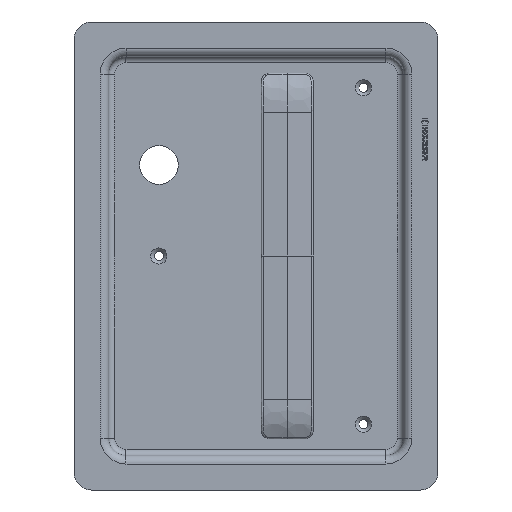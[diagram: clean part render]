
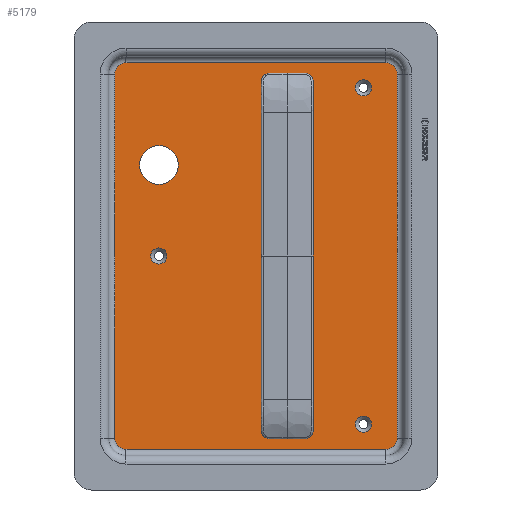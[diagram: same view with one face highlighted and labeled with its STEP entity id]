
A CAD part, front view. The second image highlights one B-rep face of the part: STEP entity #5179.
In plain terms, the highlighted planar face has unit normal (0, -1, 0) as drawn and (0, 0, -1) by its records, which use the part's own axes.
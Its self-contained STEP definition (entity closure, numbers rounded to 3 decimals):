
#267=FACE_BOUND('',#1028,.T.);
#268=FACE_BOUND('',#1029,.T.);
#269=FACE_BOUND('',#1030,.T.);
#270=FACE_BOUND('',#1031,.T.);
#271=FACE_BOUND('',#1032,.T.);
#272=FACE_BOUND('',#1033,.T.);
#273=FACE_BOUND('',#1034,.T.);
#274=FACE_BOUND('',#1035,.T.);
#516=PLANE('',#5604);
#713=FACE_OUTER_BOUND('',#1027,.T.);
#1027=EDGE_LOOP('',(#3967,#3968,#3969,#3970,#3971,#3972,#3973,#3974));
#1028=EDGE_LOOP('',(#3975));
#1029=EDGE_LOOP('',(#3976));
#1030=EDGE_LOOP('',(#3977));
#1031=EDGE_LOOP('',(#3978));
#1032=EDGE_LOOP('',(#3979));
#1033=EDGE_LOOP('',(#3980));
#1034=EDGE_LOOP('',(#3981));
#1035=EDGE_LOOP('',(#3982));
#1339=LINE('',#11691,#1757);
#1340=LINE('',#11695,#1758);
#1341=LINE('',#11699,#1759);
#1342=LINE('',#11703,#1760);
#1757=VECTOR('',#6186,10.);
#1758=VECTOR('',#6189,10.);
#1759=VECTOR('',#6192,10.);
#1760=VECTOR('',#6195,10.);
#2131=CIRCLE('',#5573,11.15);
#2142=CIRCLE('',#5591,2.75);
#2144=CIRCLE('',#5594,2.75);
#2146=CIRCLE('',#5597,2.75);
#2148=CIRCLE('',#5600,2.75);
#2150=CIRCLE('',#5603,4.65);
#2151=CIRCLE('',#5605,6.5);
#2152=CIRCLE('',#5606,6.5);
#2153=CIRCLE('',#5607,6.5);
#2154=CIRCLE('',#5608,6.5);
#2155=CIRCLE('',#5609,4.65);
#2156=CIRCLE('',#5610,4.65);
#2358=VERTEX_POINT('',#11628);
#2369=VERTEX_POINT('',#11661);
#2371=VERTEX_POINT('',#11667);
#2373=VERTEX_POINT('',#11673);
#2375=VERTEX_POINT('',#11679);
#2377=VERTEX_POINT('',#11685);
#2378=VERTEX_POINT('',#11689);
#2379=VERTEX_POINT('',#11690);
#2380=VERTEX_POINT('',#11692);
#2381=VERTEX_POINT('',#11694);
#2382=VERTEX_POINT('',#11696);
#2383=VERTEX_POINT('',#11698);
#2384=VERTEX_POINT('',#11700);
#2385=VERTEX_POINT('',#11702);
#2386=VERTEX_POINT('',#11705);
#2387=VERTEX_POINT('',#11707);
#2936=EDGE_CURVE('',#2358,#2358,#2131,.T.);
#2951=EDGE_CURVE('',#2369,#2369,#2142,.T.);
#2954=EDGE_CURVE('',#2371,#2371,#2144,.T.);
#2957=EDGE_CURVE('',#2373,#2373,#2146,.T.);
#2960=EDGE_CURVE('',#2375,#2375,#2148,.T.);
#2963=EDGE_CURVE('',#2377,#2377,#2150,.T.);
#2965=EDGE_CURVE('',#2378,#2379,#1339,.T.);
#2966=EDGE_CURVE('',#2379,#2380,#2151,.T.);
#2967=EDGE_CURVE('',#2380,#2381,#1340,.T.);
#2968=EDGE_CURVE('',#2381,#2382,#2152,.T.);
#2969=EDGE_CURVE('',#2382,#2383,#1341,.T.);
#2970=EDGE_CURVE('',#2383,#2384,#2153,.T.);
#2971=EDGE_CURVE('',#2384,#2385,#1342,.T.);
#2972=EDGE_CURVE('',#2385,#2378,#2154,.T.);
#2973=EDGE_CURVE('',#2386,#2386,#2155,.T.);
#2974=EDGE_CURVE('',#2387,#2387,#2156,.T.);
#3967=ORIENTED_EDGE('',*,*,#2965,.T.);
#3968=ORIENTED_EDGE('',*,*,#2966,.T.);
#3969=ORIENTED_EDGE('',*,*,#2967,.T.);
#3970=ORIENTED_EDGE('',*,*,#2968,.T.);
#3971=ORIENTED_EDGE('',*,*,#2969,.T.);
#3972=ORIENTED_EDGE('',*,*,#2970,.T.);
#3973=ORIENTED_EDGE('',*,*,#2971,.T.);
#3974=ORIENTED_EDGE('',*,*,#2972,.T.);
#3975=ORIENTED_EDGE('',*,*,#2936,.T.);
#3976=ORIENTED_EDGE('',*,*,#2951,.T.);
#3977=ORIENTED_EDGE('',*,*,#2954,.T.);
#3978=ORIENTED_EDGE('',*,*,#2957,.T.);
#3979=ORIENTED_EDGE('',*,*,#2960,.T.);
#3980=ORIENTED_EDGE('',*,*,#2973,.F.);
#3981=ORIENTED_EDGE('',*,*,#2974,.F.);
#3982=ORIENTED_EDGE('',*,*,#2963,.F.);
#5179=ADVANCED_FACE('',(#713,#267,#268,#269,#270,#271,#272,#273,#274),#516, .F.);
#5573=AXIS2_PLACEMENT_3D('',#11629,#6113,#6114);
#5591=AXIS2_PLACEMENT_3D('',#11662,#6153,#6154);
#5594=AXIS2_PLACEMENT_3D('',#11668,#6160,#6161);
#5597=AXIS2_PLACEMENT_3D('',#11674,#6167,#6168);
#5600=AXIS2_PLACEMENT_3D('',#11680,#6174,#6175);
#5603=AXIS2_PLACEMENT_3D('',#11686,#6181,#6182);
#5604=AXIS2_PLACEMENT_3D('',#11688,#6184,#6185);
#5605=AXIS2_PLACEMENT_3D('',#11693,#6187,#6188);
#5606=AXIS2_PLACEMENT_3D('',#11697,#6190,#6191);
#5607=AXIS2_PLACEMENT_3D('',#11701,#6193,#6194);
#5608=AXIS2_PLACEMENT_3D('',#11704,#6196,#6197);
#5609=AXIS2_PLACEMENT_3D('',#11706,#6198,#6199);
#5610=AXIS2_PLACEMENT_3D('',#11708,#6200,#6201);
#6113=DIRECTION('center_axis',(0.,0.,1.));
#6114=DIRECTION('ref_axis',(1.,0.,0.));
#6153=DIRECTION('center_axis',(0.,0.,1.));
#6154=DIRECTION('ref_axis',(1.,0.,0.));
#6160=DIRECTION('center_axis',(0.,0.,1.));
#6161=DIRECTION('ref_axis',(1.,0.,0.));
#6167=DIRECTION('center_axis',(0.,0.,1.));
#6168=DIRECTION('ref_axis',(1.,0.,0.));
#6174=DIRECTION('center_axis',(0.,0.,1.));
#6175=DIRECTION('ref_axis',(1.,0.,0.));
#6181=DIRECTION('center_axis',(0.,0.,-1.));
#6182=DIRECTION('ref_axis',(1.,0.,0.));
#6184=DIRECTION('center_axis',(0.,0.,1.));
#6185=DIRECTION('ref_axis',(1.,0.,0.));
#6186=DIRECTION('',(-1.,0.,0.));
#6187=DIRECTION('center_axis',(0.,0.,-1.));
#6188=DIRECTION('ref_axis',(-0.707,-0.707,0.));
#6189=DIRECTION('',(0.,1.,0.));
#6190=DIRECTION('center_axis',(0.,0.,-1.));
#6191=DIRECTION('ref_axis',(-0.707,0.707,0.));
#6192=DIRECTION('',(1.,0.,0.));
#6193=DIRECTION('center_axis',(0.,0.,-1.));
#6194=DIRECTION('ref_axis',(0.707,0.707,0.));
#6195=DIRECTION('',(0.,-1.,0.));
#6196=DIRECTION('center_axis',(0.,0.,-1.));
#6197=DIRECTION('ref_axis',(0.707,-0.707,0.));
#6198=DIRECTION('center_axis',(0.,0.,-1.));
#6199=DIRECTION('ref_axis',(1.,0.,0.));
#6200=DIRECTION('center_axis',(0.,0.,-1.));
#6201=DIRECTION('ref_axis',(1.,0.,0.));
#11628=CARTESIAN_POINT('',(54.85,52.5,20.));
#11629=CARTESIAN_POINT('Origin',(66.,52.5,20.));
#11661=CARTESIAN_POINT('',(-18.25,-98.,20.));
#11662=CARTESIAN_POINT('Origin',(-15.5,-98.,20.));
#11667=CARTESIAN_POINT('',(-18.25,98.,20.));
#11668=CARTESIAN_POINT('Origin',(-15.5,98.,20.));
#11673=CARTESIAN_POINT('',(-3.25,98.,20.));
#11674=CARTESIAN_POINT('Origin',(-0.5,98.,20.));
#11679=CARTESIAN_POINT('',(-3.25,-98.,20.));
#11680=CARTESIAN_POINT('Origin',(-0.5,-98.,20.));
#11685=CARTESIAN_POINT('',(61.35,0.,20.));
#11686=CARTESIAN_POINT('Origin',(66.,0.,20.));
#11688=CARTESIAN_POINT('Origin',(10.,0.,20.));
#11689=CARTESIAN_POINT('',(85.,-111.5,20.));
#11690=CARTESIAN_POINT('',(-65.,-111.5,20.));
#11691=CARTESIAN_POINT('',(47.5,-111.5,20.));
#11692=CARTESIAN_POINT('',(-71.5,-105.,20.));
#11693=CARTESIAN_POINT('Origin',(-65.,-105.,20.));
#11694=CARTESIAN_POINT('',(-71.5,105.,20.));
#11695=CARTESIAN_POINT('',(-71.5,-52.5,20.));
#11696=CARTESIAN_POINT('',(-65.,111.5,20.));
#11697=CARTESIAN_POINT('Origin',(-65.,105.,20.));
#11698=CARTESIAN_POINT('',(85.,111.5,20.));
#11699=CARTESIAN_POINT('',(-27.5,111.5,20.));
#11700=CARTESIAN_POINT('',(91.5,105.,20.));
#11701=CARTESIAN_POINT('Origin',(85.,105.,20.));
#11702=CARTESIAN_POINT('',(91.5,-105.,20.));
#11703=CARTESIAN_POINT('',(91.5,52.5,20.));
#11704=CARTESIAN_POINT('Origin',(85.,-105.,20.));
#11705=CARTESIAN_POINT('',(-56.65,-97.,20.));
#11706=CARTESIAN_POINT('Origin',(-52.,-97.,20.));
#11707=CARTESIAN_POINT('',(-56.65,97.,20.));
#11708=CARTESIAN_POINT('Origin',(-52.,97.,20.));
